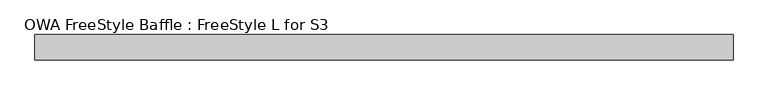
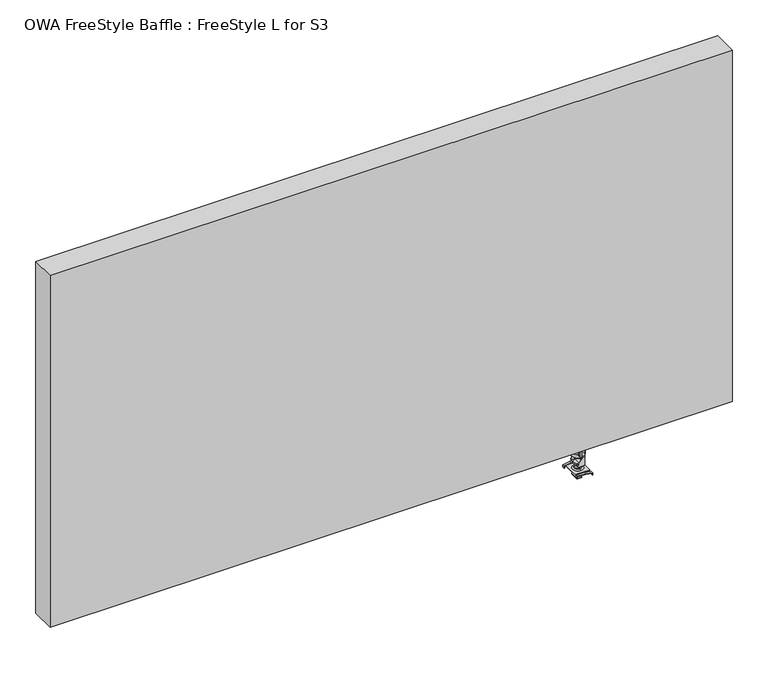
"""IFC4 building model written with IfcOpenShell, lengths in millimetres: proxy geometry, OWA FreeStyle Baffle : FreeStyle L for S3."""

from ifc_helpers import new_model, si_unit, point, frame, frame_2d, origin, place, context, project, spatial, polyline, circle_curve, trimmed, segment, composite_curve, outline, extrude, source, transform, mapped, element, save
from ifc_brep_helpers import plane_surface, cylinder_surface, revolved_surface, advanced_brep


def owa_freestyle_baffle_freestyle_l_for_s3_53db9574(model_context):
    return source(origin(), model_context, "Body", "SolidModel", [
        advanced_brep(
        [(-121.0, 8.4415003, 1.5898642), (-121.0, -8.4415003, 1.5898642), (-121.0, 0.0, 1.5898642), (-121.0, 6.3209107, 2.7955065), (-121.0, -6.3209107, 2.7955065), (-121.0, 4.2468376, 2.7955065), (-121.0, -4.2468376, 2.7955065), (-121.0, 4.2468376, 7.2398642), (-121.0, -4.2468376, 7.2398642), (-121.0, 5.0073658, 8.5775481), (-121.0, -5.0073658, 8.5775481), (-121.0, 5.0073658, 9.7898642), (-121.0, -5.0073658, 9.7898642), (-121.0, 6.1718376, 12.0898642), (-121.0, -6.1718376, 12.0898642), (-121.0, -6.1718376, 10.5898642), (-116.231961, -3.9188497, 10.5898642), (-116.231961, -3.9188497, 9.7898642), (-116.231961, 3.9188497, 9.7898642), (-116.231961, 3.9188497, 10.5898642), (-121.0, 6.1718376, 10.5898642), (-125.9436106, 3.6949009, 10.5898642), (-125.9436106, 3.6949009, 9.7898642), (-125.9436106, -3.6949009, 9.7898642), (-125.9436106, -3.6949009, 10.5898642), (-121.0, 0.0, 12.0898642), (-115.5, -10.0577889, 28.4358156), (-118.4062575, -10.0577889, 33.2858156), (-123.5, -10.0577889, 33.2858156), (-123.5, -10.0577889, 27.4015303), (-123.5, -10.0577889, 31.007432), (-118.5, -10.0577889, 31.007432), (-118.5, -10.0577889, 23.6176887), (-119.22243, -10.0577889, 21.8597795), (-123.4531897, -10.0577889, 17.5817021), (-126.4322178, -10.0577889, 13.1149322), (-125.9436106, -10.0577889, 10.5898642), (-125.9436106, -10.0577889, 9.7898642), (-116.231961, -10.0577889, 9.7898642), (-116.231961, -10.0577889, 10.5898642), (-115.5, -10.0577889, 13.1149322), (-115.5, -9.2577889, 28.4358156), (-115.5, -9.2577889, 13.1149322), (-116.231961, -9.2577889, 10.5898642), (-125.9436106, -9.2577889, 10.5898642), (-126.4322178, -9.2577889, 13.1149322), (-123.4531897, -9.2577889, 17.5817021), (-119.22243, -9.2577889, 21.8597795), (-118.5, -9.2577889, 23.6176887), (-118.5, -9.2577889, 31.007432), (-123.5, -9.2577889, 31.007432), (-123.5, -9.2577889, 27.4015303), (-123.5, -9.2577889, 33.2858156), (-118.4062575, -9.2577889, 33.2858156), (-116.231961, 9.2577889, 10.5898642), (-125.9436106, 9.2577889, 10.5898642), (-125.9436106, 10.0577889, 9.7898642), (-116.231961, 10.0577889, 9.7898642), (-125.9436106, 10.0577889, 10.5898642), (-126.4322178, 10.0577889, 13.1149322), (-123.4531897, 10.0577889, 17.5817021), (-119.22243, 10.0577889, 21.8597795), (-118.5, 10.0577889, 23.6176887), (-118.5, 10.0577889, 31.007432), (-123.5, 10.0577889, 31.007432), (-123.5, 10.0577889, 27.4015303), (-123.5, 10.0577889, 33.2858156), (-118.4062575, 10.0577889, 33.2858156), (-115.5, 10.0577889, 28.4358156), (-115.5, 10.0577889, 13.1149322), (-116.231961, 10.0577889, 10.5898642), (-115.5, 9.2577889, 28.4358156), (-118.4062575, 9.2577889, 33.2858156), (-123.5, 9.2577889, 33.2858156), (-123.5, 9.2577889, 27.4015303), (-123.5, 9.2577889, 31.007432), (-118.5, 9.2577889, 31.007432), (-118.5, 9.2577889, 23.6176887), (-119.22243, 9.2577889, 21.8597795), (-123.4531897, 9.2577889, 17.5817021), (-126.4322178, 9.2577889, 13.1149322), (-115.5, 9.2577889, 13.1149322)],
        [
            (0, 1, circle_curve(frame((-121.0, 0.0, 1.5898642), z_axis=(0.0, 0.0, -1.0), x_axis=(0.0, -1.0, 0.0)), 8.4415003)),
            (1, 2),
            (2, 0),
            (1, 0, circle_curve(frame((-121.0, 0.0, 1.5898642), z_axis=(0.0, 0.0, -1.0), x_axis=(0.0, -1.0, 0.0)), 8.4415003)),
            (0, 3),
            (3, 4, circle_curve(frame((-121.0, 0.0, 2.7955065), z_axis=(0.0, 0.0, -1.0), x_axis=(0.0, -1.0, 0.0)), 6.3209107)),
            (4, 1),
            (4, 3, circle_curve(frame((-121.0, 0.0, 2.7955065), z_axis=(0.0, 0.0, -1.0), x_axis=(0.0, -1.0, 0.0)), 6.3209107)),
            (3, 5),
            (5, 6, circle_curve(frame((-121.0, 0.0, 2.7955065), z_axis=(0.0, 0.0, -1.0), x_axis=(0.0, -1.0, 0.0)), 4.2468376)),
            (6, 4),
            (6, 5, circle_curve(frame((-121.0, 0.0, 2.7955065), z_axis=(0.0, 0.0, -1.0), x_axis=(0.0, -1.0, 0.0)), 4.2468376)),
            (5, 7),
            (7, 8, circle_curve(frame((-121.0, 0.0, 7.2398642), z_axis=(0.0, 0.0, -1.0), x_axis=(0.0, -1.0, 0.0)), 4.2468376)),
            (8, 6),
            (8, 7, circle_curve(frame((-121.0, 0.0, 7.2398642), z_axis=(0.0, 0.0, -1.0), x_axis=(0.0, -1.0, 0.0)), 4.2468376)),
            (7, 9),
            (9, 10, circle_curve(frame((-121.0, 0.0, 8.5775481), z_axis=(0.0, 0.0, -1.0), x_axis=(0.0, -1.0, 0.0)), 5.0073658)),
            (10, 8),
            (10, 9, circle_curve(frame((-121.0, 0.0, 8.5775481), z_axis=(0.0, 0.0, -1.0), x_axis=(0.0, -1.0, 0.0)), 5.0073658)),
            (9, 11),
            (11, 12, circle_curve(frame((-121.0, 0.0, 9.7898642), z_axis=(0.0, 0.0, -1.0), x_axis=(0.0, -1.0, 0.0)), 5.0073658)),
            (12, 10),
            (12, 11, circle_curve(frame((-121.0, 0.0, 9.7898642), z_axis=(0.0, 0.0, -1.0), x_axis=(0.0, -1.0, 0.0)), 5.0073658)),
            (13, 14, circle_curve(frame((-121.0, 0.0, 12.0898642), z_axis=(0.0, 0.0, -1.0), x_axis=(0.0, -1.0, 0.0)), 6.1718376)),
            (14, 15),
            (15, 16, circle_curve(frame((-121.0, 0.0, 10.5898642), z_axis=(0.0, 0.0, 1.0), x_axis=(0.0, -1.0, 0.0)), 6.1718376)),
            (16, 17),
            (17, 18, circle_curve(frame((-121.0, 0.0, 9.7898642), z_axis=(0.0, 0.0, 1.0), x_axis=(0.0, -1.0, 0.0)), 6.1718376)),
            (18, 19),
            (19, 20, circle_curve(frame((-121.0, 0.0, 10.5898642), z_axis=(0.0, 0.0, 1.0), x_axis=(0.0, -1.0, 0.0)), 6.1718376)),
            (20, 13),
            (14, 13, circle_curve(frame((-121.0, 0.0, 12.0898642), z_axis=(0.0, 0.0, -1.0), x_axis=(0.0, -1.0, 0.0)), 6.1718376)),
            (20, 21, circle_curve(frame((-121.0, 0.0, 10.5898642), z_axis=(0.0, 0.0, 1.0), x_axis=(0.0, -1.0, 0.0)), 6.1718376)),
            (21, 22),
            (22, 23, circle_curve(frame((-121.0, 0.0, 9.7898642), z_axis=(0.0, 0.0, 1.0), x_axis=(0.0, -1.0, 0.0)), 6.1718376)),
            (23, 24),
            (24, 15, circle_curve(frame((-121.0, 0.0, 10.5898642), z_axis=(0.0, 0.0, 1.0), x_axis=(0.0, -1.0, 0.0)), 6.1718376)),
            (13, 25),
            (25, 14),
            (26, 27, circle_curve(frame((-121.0, -10.0577889, 28.4358156), z_axis=(0.0, -1.0, 0.0), x_axis=(0.0, 0.0, 1.0)), 5.5)),
            (27, 28),
            (28, 29, circle_curve(frame((-122.4794267, -10.0577889, 30.343673), z_axis=(0.0, -1.0, 0.0), x_axis=(0.0, 0.0, 1.0)), 3.1141248)),
            (29, 30),
            (30, 31),
            (31, 32),
            (32, 33, circle_curve(frame((-121.0, -10.0577889, 23.6176887), z_axis=(0.0, 1.0, 0.0), x_axis=(0.0, 0.0, 1.0)), 2.5)),
            (33, 34),
            (34, 35, circle_curve(frame((-113.4323663, -10.0577889, 7.6717141), z_axis=(0.0, -1.0, 0.0), x_axis=(0.0, 0.0, 1.0)), 14.0934298)),
            (35, 36, circle_curve(frame((-124.2927664, -10.0577889, 12.2191142), z_axis=(0.0, -1.0, 0.0), x_axis=(0.0, 0.0, 1.0)), 2.3194271)),
            (36, 37),
            (37, 38),
            (38, 39),
            (39, 40, circle_curve(frame((-120.221382, -10.0577889, 13.1149322), z_axis=(0.0, -1.0, 0.0), x_axis=(0.0, 0.0, 1.0)), 4.721382)),
            (40, 26),
            (41, 42),
            (42, 43, circle_curve(frame((-120.221382, -9.2577889, 13.1149322), z_axis=(0.0, 1.0, 0.0), x_axis=(0.0, 0.0, 1.0)), 4.721382)),
            (43, 44),
            (44, 45, circle_curve(frame((-124.2927664, -9.2577889, 12.2191142), z_axis=(0.0, 1.0, 0.0), x_axis=(0.0, 0.0, 1.0)), 2.3194271)),
            (45, 46, circle_curve(frame((-113.4323663, -9.2577889, 7.6717141), z_axis=(0.0, 1.0, 0.0), x_axis=(0.0, 0.0, 1.0)), 14.0934298)),
            (46, 47),
            (47, 48, circle_curve(frame((-121.0, -9.2577889, 23.6176887), z_axis=(0.0, -1.0, 0.0), x_axis=(0.0, 0.0, 1.0)), 2.5)),
            (48, 49),
            (49, 50),
            (50, 51),
            (51, 52, circle_curve(frame((-122.4794267, -9.2577889, 30.343673), z_axis=(0.0, 1.0, 0.0), x_axis=(0.0, 0.0, 1.0)), 3.1141248)),
            (52, 53),
            (53, 41, circle_curve(frame((-121.0, -9.2577889, 28.4358156), z_axis=(0.0, 1.0, 0.0), x_axis=(0.0, 0.0, 1.0)), 5.5)),
            (26, 41),
            (53, 27),
            (52, 28),
            (51, 29),
            (50, 30),
            (49, 31),
            (33, 47),
            (46, 34),
            (45, 35),
            (44, 36),
            (39, 43),
            (42, 40),
            (32, 48),
            (43, 16),
            (24, 44),
            (54, 55),
            (55, 21),
            (19, 54),
            (56, 57),
            (57, 18),
            (17, 38),
            (37, 23),
            (22, 56),
            (58, 56),
            (55, 58),
            (58, 59, circle_curve(frame((-124.2927664, 10.0577889, 12.2191142), z_axis=(0.0, 1.0, 0.0), x_axis=(0.0, 0.0, 1.0)), 2.3194271)),
            (59, 60, circle_curve(frame((-113.4323663, 10.0577889, 7.6717141), z_axis=(0.0, 1.0, 0.0), x_axis=(0.0, 0.0, 1.0)), 14.0934298)),
            (60, 61),
            (61, 62, circle_curve(frame((-121.0, 10.0577889, 23.6176887), z_axis=(0.0, -1.0, 0.0), x_axis=(0.0, 0.0, 1.0)), 2.5)),
            (62, 63),
            (63, 64),
            (64, 65),
            (65, 66, circle_curve(frame((-122.4794267, 10.0577889, 30.343673), z_axis=(0.0, 1.0, 0.0), x_axis=(0.0, 0.0, 1.0)), 3.1141248)),
            (66, 67),
            (67, 68, circle_curve(frame((-121.0, 10.0577889, 28.4358156), z_axis=(0.0, 1.0, 0.0), x_axis=(0.0, 0.0, 1.0)), 5.5)),
            (68, 69),
            (69, 70, circle_curve(frame((-120.221382, 10.0577889, 13.1149322), z_axis=(0.0, 1.0, 0.0), x_axis=(0.0, 0.0, 1.0)), 4.721382)),
            (70, 57),
            (70, 54),
            (71, 72, circle_curve(frame((-121.0, 9.2577889, 28.4358156), z_axis=(0.0, -1.0, 0.0), x_axis=(0.0, 0.0, 1.0)), 5.5)),
            (72, 73),
            (73, 74, circle_curve(frame((-122.4794267, 9.2577889, 30.343673), z_axis=(0.0, -1.0, 0.0), x_axis=(0.0, 0.0, 1.0)), 3.1141248)),
            (74, 75),
            (75, 76),
            (76, 77),
            (77, 78, circle_curve(frame((-121.0, 9.2577889, 23.6176887), z_axis=(0.0, 1.0, 0.0), x_axis=(0.0, 0.0, 1.0)), 2.5)),
            (78, 79),
            (79, 80, circle_curve(frame((-113.4323663, 9.2577889, 7.6717141), z_axis=(0.0, -1.0, 0.0), x_axis=(0.0, 0.0, 1.0)), 14.0934298)),
            (80, 55, circle_curve(frame((-124.2927664, 9.2577889, 12.2191142), z_axis=(0.0, -1.0, 0.0), x_axis=(0.0, 0.0, 1.0)), 2.3194271)),
            (54, 81, circle_curve(frame((-120.221382, 9.2577889, 13.1149322), z_axis=(0.0, -1.0, 0.0), x_axis=(0.0, 0.0, 1.0)), 4.721382)),
            (81, 71),
            (67, 72),
            (71, 68),
            (66, 73),
            (65, 74),
            (64, 75),
            (63, 76),
            (60, 79),
            (78, 61),
            (59, 80),
            (69, 81),
            (77, 62),
        ],
        [
            plane_surface(frame((-121.0, 0.0, 1.5898642), z_axis=(0.0, 0.0, -1.0), x_axis=(0.0, -1.0, 0.0))),
            revolved_surface(polyline([(-121.0, -8.4415003, 1.5898642), (-121.0, -6.3209107, 2.7955065)]), (-121.0, 0.0, -2.0962775), (0.0, 0.0, 1.0)),
            plane_surface(frame((-121.0, 0.0, 2.7955065), z_axis=(0.0, 0.0, 1.0), x_axis=(0.0, -1.0, 0.0))),
            cylinder_surface(frame((-121.0, 0.0, -2.0962775), z_axis=(0.0, 0.0, 1.0), x_axis=(0.0, -1.0, 0.0)), 4.2468376),
            revolved_surface(polyline([(-121.0, -4.2468376, 7.2398642), (-121.0, -5.0073658, 8.5775481)]), (-121.0, 0.0, -2.0962775), (0.0, 0.0, 1.0)),
            cylinder_surface(frame((-121.0, 0.0, -2.0962775), z_axis=(0.0, 0.0, 1.0), x_axis=(0.0, -1.0, 0.0)), 5.0073658),
            cylinder_surface(frame((-121.0, 0.0, -2.0962775), z_axis=(0.0, 0.0, 1.0), x_axis=(0.0, -1.0, 0.0)), 6.1718376),
            plane_surface(frame((-121.0, 0.0, 12.0898642), z_axis=(0.0, 0.0, 1.0), x_axis=(0.0, -1.0, 0.0))),
            plane_surface(frame((-115.5, -10.0577889, 13.1149322), z_axis=(0.0, -1.0, 0.0), x_axis=(0.0, 0.0, 1.0))),
            plane_surface(frame((-115.5, -9.2577889, 13.1149322), z_axis=(0.0, 1.0, 0.0), x_axis=(0.0, 0.0, -1.0))),
            cylinder_surface(frame((-121.0, -10.0577889, 28.4358156), z_axis=(0.0, 1.0, 0.0), x_axis=(0.0, 0.0, 1.0)), 5.5),
            plane_surface(frame((-123.5, -9.2577889, 33.2858156), z_axis=(0.0, 0.0, 1.0), x_axis=(0.0, -1.0, 0.0))),
            cylinder_surface(frame((-122.4794267, -10.0577889, 30.343673), z_axis=(0.0, 1.0, 0.0), x_axis=(0.0, 0.0, 1.0)), 3.1141248),
            plane_surface(frame((-123.5, -9.2577889, 31.007432), z_axis=(1.0, 0.0, 0.0), x_axis=(0.0, -1.0, 0.0))),
            plane_surface(frame((-118.5, -9.2577889, 31.007432), z_axis=(0.0, 0.0, -1.0), x_axis=(0.0, -1.0, 0.0))),
            plane_surface(frame((-123.4531897, -9.2577889, 17.5817021), z_axis=(-0.7110280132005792, 0.0, 0.7031636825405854), x_axis=(0.0, -1.0, 0.0))),
            cylinder_surface(frame((-113.4323663, -10.0577889, 7.6717141), z_axis=(0.0, 1.0, 0.0), x_axis=(0.0, 0.0, 1.0)), 14.0934298),
            cylinder_surface(frame((-124.2927664, -10.0577889, 12.2191142), z_axis=(0.0, 1.0, 0.0), x_axis=(0.0, 0.0, 1.0)), 2.3194271),
            cylinder_surface(frame((-120.221382, -10.0577889, 13.1149322), z_axis=(0.0, 1.0, 0.0), x_axis=(0.0, 0.0, 1.0)), 4.721382),
            plane_surface(frame((-115.5, -9.2577889, 28.4358156), z_axis=(1.0, 0.0, 0.0), x_axis=(0.0, -1.0, 0.0))),
            revolved_surface(polyline([(-121.0, -10.0577889, 26.1176887), (-121.0, -9.2577889, 26.1176887)]), (-121.0, -10.0577889, 23.6176887), (0.0, -1.0, 0.0)),
            plane_surface(frame((-118.5, -9.2577889, 23.6176887), z_axis=(-1.0, 0.0, 0.0), x_axis=(0.0, -1.0, 0.0))),
            plane_surface(frame((-125.9436106, -9.2577889, 10.5898642), z_axis=(0.0, 0.0, 1.0), x_axis=(0.0, -1.0, 0.0))),
            plane_surface(frame((-125.9436106, -9.2577889, 9.7898642), z_axis=(0.0, 0.0, -1.0), x_axis=(0.0, 1.0, 0.0))),
            plane_surface(frame((-125.9436106, -10.0577889, 9.7898642), z_axis=(-1.0, 0.0, 0.0), x_axis=(0.0, 0.0, 1.0))),
            plane_surface(frame((-125.9436106, 10.0577889, 9.7898642), z_axis=(0.0, 1.0, 0.0), x_axis=(0.0, 0.0, 1.0))),
            plane_surface(frame((-116.231961, 10.0577889, 9.7898642), z_axis=(1.0, 0.0, 0.0), x_axis=(0.0, 0.0, 1.0))),
            plane_surface(frame((-121.0, 9.2577889, 33.9358156), z_axis=(0.0, -1.0, 0.0), x_axis=(-1.0, 0.0, 0.0))),
            cylinder_surface(frame((-121.0, 10.0577889, 28.4358156), z_axis=(0.0, -1.0, 0.0), x_axis=(0.0, 0.0, 1.0)), 5.5),
            plane_surface(frame((-118.4062575, 9.2577889, 33.2858156), z_axis=(0.0, 0.0, 1.0), x_axis=(0.0, 1.0, 0.0))),
            cylinder_surface(frame((-122.4794267, 10.0577889, 30.343673), z_axis=(0.0, -1.0, 0.0), x_axis=(0.0, 0.0, 1.0)), 3.1141248),
            plane_surface(frame((-123.5, 9.2577889, 27.4015303), z_axis=(1.0, 0.0, 0.0), x_axis=(0.0, 1.0, 0.0))),
            plane_surface(frame((-123.5, 9.2577889, 31.007432), z_axis=(0.0, 0.0, -1.0), x_axis=(0.0, 1.0, 0.0))),
            plane_surface(frame((-119.22243, 9.2577889, 21.8597795), z_axis=(-0.7110280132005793, 0.0, 0.7031636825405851), x_axis=(0.0, 1.0, 0.0))),
            cylinder_surface(frame((-113.4323663, 10.0577889, 7.6717141), z_axis=(0.0, -1.0, 0.0), x_axis=(0.0, 0.0, 1.0)), 14.0934298),
            cylinder_surface(frame((-124.2927664, 10.0577889, 12.2191142), z_axis=(0.0, -1.0, 0.0), x_axis=(0.0, 0.0, 1.0)), 2.3194271),
            cylinder_surface(frame((-120.221382, 10.0577889, 13.1149322), z_axis=(0.0, -1.0, 0.0), x_axis=(0.0, 0.0, 1.0)), 4.721382),
            plane_surface(frame((-115.5, 9.2577889, 13.1149322), z_axis=(1.0, 0.0, 0.0), x_axis=(0.0, 1.0, 0.0))),
            revolved_surface(polyline([(-121.0, 10.0577889, 26.1176887), (-121.0, 9.2577889, 26.1176887)]), (-121.0, 10.0577889, 23.6176887), (0.0, 1.0, 0.0)),
            plane_surface(frame((-118.5, 9.2577889, 31.007432), z_axis=(-1.0, 0.0, 0.0), x_axis=(0.0, 1.0, 0.0))),
        ],
        [
            (0, [[1, 2, 3]]),
            (0, [[-2, 4, -3]]),
            (1, [[-1, 5, 6, 7]]),
            (1, [[-4, -7, 8, -5]]),
            (2, [[-6, 9, 10, 11]]),
            (2, [[-8, -11, 12, -9]]),
            (3, [[-10, 13, 14, 15]]),
            (3, [[-12, -15, 16, -13]]),
            (4, [[-14, 17, 18, 19]]),
            (4, [[-16, -19, 20, -17]]),
            (5, [[-18, 21, 22, 23]]),
            (5, [[-20, -23, 24, -21]]),
            (6, [[25, 26, 27, 28, 29, 30, 31, 32]]),
            (6, [[33, -32, 34, 35, 36, 37, 38, -26]]),
            (7, [[-25, 39, 40]]),
            (7, [[-33, -40, -39]]),
            (8, [[41, 42, 43, 44, 45, 46, 47, 48, 49, 50, 51, 52, 53, 54, 55]]),
            (9, [[56, 57, 58, 59, 60, 61, 62, 63, 64, 65, 66, 67, 68]]),
            (10, [[-41, 69, -68, 70]]),
            (11, [[-42, -70, -67, 71]]),
            (12, [[-43, -71, -66, 72]]),
            (13, [[-44, -72, -65, 73]]),
            (14, [[-45, -73, -64, 74]]),
            (15, [[-48, 75, -61, 76]]),
            (16, [[-49, -76, -60, 77]]),
            (17, [[-50, -77, -59, 78]]),
            (18, [[-54, 79, -57, 80]]),
            (19, [[-55, -80, -56, -69]]),
            (20, [[-47, 81, -62, -75]]),
            (21, [[-46, -74, -63, -81]]),
            (22, [[-58, 82, -27, -38, 83]]),
            (22, [[84, 85, -34, -31, 86]]),
            (23, [[87, 88, -29, 89, -52, 90, -36, 91], [-24, -22]]),
            (24, [[-51, -78, -83, -37, -90]]),
            (24, [[92, -91, -35, -85, 93]]),
            (25, [[-87, -92, 94, 95, 96, 97, 98, 99, 100, 101, 102, 103, 104, 105, 106]]),
            (26, [[-53, -89, -28, -82, -79]]),
            (26, [[-106, 107, -86, -30, -88]]),
            (27, [[108, 109, 110, 111, 112, 113, 114, 115, 116, 117, -84, 118, 119]]),
            (28, [[-103, 120, -108, 121]]),
            (29, [[-102, 122, -109, -120]]),
            (30, [[-101, 123, -110, -122]]),
            (31, [[-100, 124, -111, -123]]),
            (32, [[-99, 125, -112, -124]]),
            (33, [[-96, 126, -115, 127]]),
            (34, [[-95, 128, -116, -126]]),
            (35, [[-94, -93, -117, -128]]),
            (36, [[-105, 129, -118, -107]]),
            (37, [[-104, -121, -119, -129]]),
            (38, [[-97, -127, -114, 130]]),
            (39, [[-98, -130, -113, -125]]),
        ],
    ),
        advanced_brep(
        [(-125.5504372, -6.4495628, -1.2101358), (-125.5504372, -6.4495628, -2.0101358), (-132.5504372, -6.4495628, -2.0101358), (-132.5504372, -6.4495628, 1.5898642), (-132.5504372, -6.4495628, 0.7898642), (-132.5504372, -6.4495628, -1.2101358), (-132.5504372, -14.9495628, -1.2101358), (-132.5504372, -18.9495628, -1.2101358), (-125.5504372, -18.9495628, -1.2101358), (-132.5504372, -12.9495628, 0.7898642), (-132.5504372, -14.9495628, 0.7898642), (-132.5504372, -14.9495628, -2.0101358), (-132.5504372, -14.9495628, 1.5898642), (-132.5504372, -12.9495628, 1.5898642), (-125.5504372, -18.9495628, -2.0101358), (-132.5504372, -18.9495628, -2.0101358), (-109.5504372, -12.9495628, 1.5898642), (-109.5504372, 6.4495628, 1.5898642), (-109.5504372, 13.0504372, 1.5898642), (-132.5504372, 13.0504372, 1.5898642), (-132.5504372, 13.0504372, 0.7898642), (-109.5504372, 13.0504372, 0.7898642), (-109.5504372, 6.4495628, 0.7898642), (-109.5504372, -12.9495628, 0.7898642), (-132.5504372, -18.9495628, 0.7898642), (-118.9412497, -18.9495628, 0.7898642), (-108.5499325, -18.9495628, -1.0424054), (-108.5499325, -18.9495628, -4.0091992), (-107.7499325, -18.9495628, -4.0091992), (-107.7499325, -18.9495628, -0.3711257), (-118.8712588, -18.9495628, 1.5898642), (-132.5504372, -18.9495628, 1.5898642), (-118.8712588, -14.9495628, 1.5898642), (-107.7499325, -14.9495628, -0.3711257), (-107.7499325, -14.9495628, -4.0091992), (-108.5499325, -14.9495628, -4.0091992), (-108.5499325, -14.9495628, -1.0424054), (-118.9412497, -14.9495628, 0.7898642), (-116.5504372, 6.4495628, -1.2101358), (-116.5504372, 6.4495628, -2.0101358), (-109.5504372, 6.4495628, -2.0101358), (-109.5504372, 6.4495628, -1.2101358), (-109.5504372, 14.9495628, -1.2101358), (-109.5504372, 18.9495628, -1.2101358), (-116.5504372, 18.9495628, -1.2101358), (-109.5504372, 14.9495628, 0.7898642), (-109.5504372, 14.9495628, -2.0101358), (-109.5504372, 14.9495628, 1.5898642), (-116.5504372, 18.9495628, -2.0101358), (-109.5504372, 18.9495628, -2.0101358), (-109.5504372, 18.9495628, 0.7898642), (-123.1596246, 18.9495628, 0.7898642), (-133.5509418, 18.9495628, -1.0424054), (-133.5509418, 18.9495628, -4.0091992), (-134.3509418, 18.9495628, -4.0091992), (-134.3509418, 18.9495628, -0.3711257), (-123.2296155, 18.9495628, 1.5898642), (-109.5504372, 18.9495628, 1.5898642), (-123.2296155, 14.9495628, 1.5898642), (-134.3509418, 14.9495628, -0.3711257), (-134.3509418, 14.9495628, -4.0091992), (-133.5509418, 14.9495628, -4.0091992), (-133.5509418, 14.9495628, -1.0424054), (-123.1596246, 14.9495628, 0.7898642)],
        [
            (0, 1),
            (1, 2),
            (2, 3, circle_curve(frame((-132.5504372, -6.4495628, -0.2101358), z_axis=(0.0, 1.0, 0.0), x_axis=(1.0, 0.0, 0.0)), 1.8)),
            (3, 4),
            (4, 5, circle_curve(frame((-132.5504372, -6.4495628, -0.2101358), z_axis=(0.0, -1.0, 0.0), x_axis=(1.0, 0.0, 0.0)), 1.0)),
            (5, 0),
            (5, 6),
            (6, 7),
            (7, 8),
            (8, 0),
            (4, 9),
            (9, 10),
            (10, 6, circle_curve(frame((-132.5504372, -14.9495628, -0.2101358), z_axis=(0.0, -1.0, 0.0), x_axis=(1.0, 0.0, 0.0)), 1.0)),
            (2, 11),
            (11, 12, circle_curve(frame((-132.5504372, -14.9495628, -0.2101358), z_axis=(0.0, 1.0, 0.0), x_axis=(1.0, 0.0, 0.0)), 1.8)),
            (12, 13),
            (13, 3),
            (1, 14),
            (14, 15),
            (15, 11),
            (8, 14),
            (12, 10),
            (9, 13),
            (13, 16),
            (16, 17),
            (17, 18),
            (18, 19),
            (19, 3),
            (20, 21),
            (21, 22),
            (22, 23),
            (23, 9),
            (4, 20),
            (18, 21),
            (20, 19),
            (16, 23),
            (22, 17),
            (7, 24, circle_curve(frame((-132.5504372, -18.9495628, -0.2101358), z_axis=(0.0, 1.0, 0.0), x_axis=(1.0, 0.0, 0.0)), 1.0)),
            (24, 25),
            (25, 26),
            (26, 27),
            (27, 28),
            (28, 29),
            (29, 30),
            (30, 31),
            (31, 15, circle_curve(frame((-132.5504372, -18.9495628, -0.2101358), z_axis=(0.0, -1.0, 0.0), x_axis=(1.0, 0.0, 0.0)), 1.8)),
            (12, 32),
            (32, 33),
            (33, 34),
            (34, 35),
            (35, 36),
            (36, 37),
            (37, 10),
            (10, 24),
            (37, 25),
            (30, 32),
            (12, 31),
            (36, 26),
            (35, 27),
            (34, 28),
            (33, 29),
            (38, 39),
            (39, 40),
            (40, 17, circle_curve(frame((-109.5504372, 6.4495628, -0.2101358), z_axis=(0.0, -1.0, 0.0), x_axis=(-1.0, 0.0, 0.0)), 1.8)),
            (22, 41, circle_curve(frame((-109.5504372, 6.4495628, -0.2101358), z_axis=(0.0, 1.0, 0.0), x_axis=(-1.0, 0.0, 0.0)), 1.0)),
            (41, 38),
            (41, 42),
            (42, 43),
            (43, 44),
            (44, 38),
            (21, 45),
            (45, 42, circle_curve(frame((-109.5504372, 14.9495628, -0.2101358), z_axis=(0.0, 1.0, 0.0), x_axis=(-1.0, 0.0, 0.0)), 1.0)),
            (40, 46),
            (46, 47, circle_curve(frame((-109.5504372, 14.9495628, -0.2101358), z_axis=(0.0, -1.0, 0.0), x_axis=(-1.0, 0.0, 0.0)), 1.8)),
            (47, 18),
            (39, 48),
            (48, 49),
            (49, 46),
            (44, 48),
            (47, 45),
            (43, 50, circle_curve(frame((-109.5504372, 18.9495628, -0.2101358), z_axis=(0.0, -1.0, 0.0), x_axis=(-1.0, 0.0, 0.0)), 1.0)),
            (50, 51),
            (51, 52),
            (52, 53),
            (53, 54),
            (54, 55),
            (55, 56),
            (56, 57),
            (57, 49, circle_curve(frame((-109.5504372, 18.9495628, -0.2101358), z_axis=(0.0, 1.0, 0.0), x_axis=(-1.0, 0.0, 0.0)), 1.8)),
            (47, 58),
            (58, 59),
            (59, 60),
            (60, 61),
            (61, 62),
            (62, 63),
            (63, 45),
            (45, 50),
            (63, 51),
            (56, 58),
            (47, 57),
            (62, 52),
            (61, 53),
            (60, 54),
            (59, 55),
        ],
        [
            plane_surface(frame((-132.5504372, -6.4495628, -1.2101358), z_axis=(0.0, 1.0, 0.0), x_axis=(1.0, 0.0, 0.0))),
            plane_surface(frame((-125.5504372, -14.9495628, -1.2101358), z_axis=(0.0, 0.0, 1.0), x_axis=(0.0, 1.0, 0.0))),
            revolved_surface(polyline([(-131.5504372, -6.4495628, -0.2101358), (-131.5504372, -14.949562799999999, -0.2101358)]), (-132.5504372, -6.4495628, -0.2101358), (0.0, 1.0, 0.0)),
            cylinder_surface(frame((-132.5504372, -6.4495628, -0.2101358), z_axis=(0.0, -1.0, 0.0), x_axis=(1.0, 0.0, 0.0)), 1.8),
            plane_surface(frame((-132.5504372, -14.9495628, -2.0101358), z_axis=(0.0, 0.0, -1.0), x_axis=(0.0, 1.0, 0.0))),
            plane_surface(frame((-125.5504372, -14.9495628, -2.0101358), z_axis=(1.0, 0.0, 0.0), x_axis=(0.0, 1.0, 0.0))),
            plane_surface(frame((-132.5504372, -14.9495628, 0.7898642), z_axis=(1.0, 0.0, 0.0), x_axis=(0.0, 1.0, 0.0))),
            plane_surface(frame((-112.0504372, 13.0504372, 1.5898642), z_axis=(0.0, 0.0, 1.0), x_axis=(-1.0, 0.0, 0.0))),
            plane_surface(frame((-112.0504372, 13.0504372, 0.7898642), z_axis=(0.0, 0.0, -1.0), x_axis=(1.0, 0.0, 0.0))),
            plane_surface(frame((-132.5504372, 13.0504372, 0.7898642), z_axis=(0.0, 1.0, 0.0), x_axis=(0.0, 0.0, 1.0))),
            plane_surface(frame((-109.5504372, 13.0504372, 0.7898642), z_axis=(1.0, 0.0, 0.0), x_axis=(0.0, 0.0, 1.0))),
            plane_surface(frame((-109.5504372, -12.9495628, 0.7898642), z_axis=(0.0, -1.0, 0.0), x_axis=(0.0, 0.0, 1.0))),
            plane_surface(frame((-132.5504372, -12.9495628, 0.7898642), z_axis=(-1.0, 0.0, 0.0), x_axis=(0.0, 0.0, 1.0))),
            plane_surface(frame((-132.5504372, -18.9495628, -1.2101358), z_axis=(0.0, -1.0, 0.0), x_axis=(-1.0, 0.0, 0.0))),
            plane_surface(frame((-132.5504372, -14.9495628, -1.2101358), z_axis=(0.0, 1.0, 0.0), x_axis=(1.0, 0.0, 0.0))),
            revolved_surface(polyline([(-131.5504372, -14.9495628, -0.2101358), (-131.5504372, -18.9495628, -0.2101358)]), (-132.5504372, -14.9495628, -0.2101358), (0.0, 1.0, 0.0)),
            plane_surface(frame((-132.5504372, -18.9495628, 0.7898642), z_axis=(0.0, 0.0, -1.0), x_axis=(0.0, 1.0, 0.0))),
            plane_surface(frame((-118.8712588, -18.9495628, 1.5898642), z_axis=(0.0, 0.0, 1.0), x_axis=(0.0, 1.0, 0.0))),
            cylinder_surface(frame((-132.5504372, -14.9495628, -0.2101358), z_axis=(0.0, -1.0, 0.0), x_axis=(1.0, 0.0, 0.0)), 1.8),
            plane_surface(frame((-118.9412497, -18.9495628, 0.7898642), z_axis=(-0.17364817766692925, 0.0, -0.9848077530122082), x_axis=(0.0, 1.0, 0.0))),
            plane_surface(frame((-108.5499325, -18.9495628, -1.0424054), z_axis=(-1.0, 0.0, 0.0), x_axis=(0.0, 1.0, 0.0))),
            plane_surface(frame((-108.5499325, -18.9495628, -4.0091992), z_axis=(0.0, 0.0, -1.0), x_axis=(0.0, 1.0, 0.0))),
            plane_surface(frame((-107.7499325, -18.9495628, -4.0091992), z_axis=(1.0, 0.0, 0.0), x_axis=(0.0, 1.0, 0.0))),
            plane_surface(frame((-107.7499325, -18.9495628, -0.3711257), z_axis=(0.17364817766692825, 0.0, 0.9848077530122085), x_axis=(0.0, 1.0, 0.0))),
            plane_surface(frame((-109.5504372, 6.4495628, -1.2101358), z_axis=(0.0, -1.0, 0.0), x_axis=(-1.0, 0.0, 0.0))),
            plane_surface(frame((-116.5504372, 14.9495628, -1.2101358), z_axis=(0.0, 0.0, 1.0), x_axis=(0.0, -1.0, 0.0))),
            revolved_surface(polyline([(-110.5504372, 6.4495628, -0.2101358), (-110.5504372, 14.949562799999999, -0.2101358)]), (-109.5504372, 6.4495628, -0.2101358), (0.0, -1.0, 0.0)),
            cylinder_surface(frame((-109.5504372, 6.4495628, -0.2101358), z_axis=(0.0, 1.0, 0.0), x_axis=(-1.0, 0.0, 0.0)), 1.8),
            plane_surface(frame((-109.5504372, 14.9495628, -2.0101358), z_axis=(0.0, 0.0, -1.0), x_axis=(0.0, -1.0, 0.0))),
            plane_surface(frame((-116.5504372, 14.9495628, -2.0101358), z_axis=(-1.0, 0.0, 0.0), x_axis=(0.0, -1.0, 0.0))),
            plane_surface(frame((-109.5504372, 14.9495628, 0.7898642), z_axis=(-1.0, 0.0, 0.0), x_axis=(0.0, -1.0, 0.0))),
            plane_surface(frame((-109.5504372, 18.9495628, -1.2101358), z_axis=(0.0, 1.0, 0.0), x_axis=(1.0, 0.0, 0.0))),
            plane_surface(frame((-109.5504372, 14.9495628, -1.2101358), z_axis=(0.0, -1.0, 0.0), x_axis=(-1.0, 0.0, 0.0))),
            revolved_surface(polyline([(-110.5504372, 14.9495628, -0.2101358), (-110.5504372, 18.9495628, -0.2101358)]), (-109.5504372, 14.9495628, -0.2101358), (0.0, -1.0, 0.0)),
            plane_surface(frame((-109.5504372, 18.9495628, 0.7898642), z_axis=(0.0, 0.0, -1.0), x_axis=(0.0, -1.0, 0.0))),
            plane_surface(frame((-123.2296155, 18.9495628, 1.5898642), z_axis=(0.0, 0.0, 1.0), x_axis=(0.0, -1.0, 0.0))),
            cylinder_surface(frame((-109.5504372, 14.9495628, -0.2101358), z_axis=(0.0, 1.0, 0.0), x_axis=(-1.0, 0.0, 0.0)), 1.8),
            plane_surface(frame((-123.1596246, 18.9495628, 0.7898642), z_axis=(0.17364817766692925, 0.0, -0.9848077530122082), x_axis=(0.0, -1.0, 0.0))),
            plane_surface(frame((-133.5509418, 18.9495628, -1.0424054), z_axis=(1.0, 0.0, 0.0), x_axis=(0.0, -1.0, 0.0))),
            plane_surface(frame((-133.5509418, 18.9495628, -4.0091992), z_axis=(0.0, 0.0, -1.0), x_axis=(0.0, -1.0, 0.0))),
            plane_surface(frame((-134.3509418, 18.9495628, -4.0091992), z_axis=(-1.0, 0.0, 0.0), x_axis=(0.0, -1.0, 0.0))),
            plane_surface(frame((-134.3509418, 18.9495628, -0.3711257), z_axis=(-0.17364817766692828, 0.0, 0.9848077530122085), x_axis=(0.0, -1.0, 0.0))),
        ],
        [
            (0, [[1, 2, 3, 4, 5, 6]]),
            (1, [[-6, 7, 8, 9, 10]]),
            (2, [[-5, 11, 12, 13, -7]]),
            (3, [[-3, 14, 15, 16, 17]]),
            (4, [[-2, 18, 19, 20, -14]]),
            (5, [[-1, -10, 21, -18]]),
            (6, [[-16, 22, -12, 23]]),
            (7, [[24, 25, 26, 27, 28, -17]]),
            (8, [[29, 30, 31, 32, -11, 33]]),
            (9, [[-27, 34, -29, 35]]),
            (10, [[36, -31, 37, -25]]),
            (11, [[-24, -23, -32, -36]]),
            (12, [[-35, -33, -4, -28]]),
            (13, [[-9, 38, 39, 40, 41, 42, 43, 44, 45, 46, -19, -21]]),
            (14, [[47, 48, 49, 50, 51, 52, 53, -22]]),
            (15, [[-38, -8, -13, 54]]),
            (16, [[-39, -54, -53, 55]]),
            (17, [[-45, 56, -47, 57]]),
            (18, [[-46, -57, -15, -20]]),
            (19, [[-40, -55, -52, 58]]),
            (20, [[-41, -58, -51, 59]]),
            (21, [[-42, -59, -50, 60]]),
            (22, [[-43, -60, -49, 61]]),
            (23, [[-44, -61, -48, -56]]),
            (24, [[62, 63, 64, -37, 65, 66]]),
            (25, [[-66, 67, 68, 69, 70]]),
            (26, [[-65, -30, 71, 72, -67]]),
            (27, [[-64, 73, 74, 75, -26]]),
            (28, [[-63, 76, 77, 78, -73]]),
            (29, [[-76, -62, -70, 79]]),
            (30, [[-75, 80, -71, -34]]),
            (31, [[-69, 81, 82, 83, 84, 85, 86, 87, 88, 89, -77, -79]]),
            (32, [[90, 91, 92, 93, 94, 95, 96, -80]]),
            (33, [[-81, -68, -72, 97]]),
            (34, [[-82, -97, -96, 98]]),
            (35, [[-88, 99, -90, 100]]),
            (36, [[-89, -100, -74, -78]]),
            (37, [[-83, -98, -95, 101]]),
            (38, [[-84, -101, -94, 102]]),
            (39, [[-85, -102, -93, 103]]),
            (40, [[-86, -103, -92, 104]]),
            (41, [[-87, -104, -91, -99]]),
        ],
    ),
        extrude(outline(composite_curve([segment(trimmed(circle_curve(frame_2d((-121.0, 0.0)), 15.8660547), [point((-136.8660547, 0.0))], [point((-105.1339453, 0.0))], False, "CARTESIAN"), True, "CONTINUOUS"), segment(trimmed(circle_curve(frame_2d((-121.0, 0.0)), 15.8660547), [point((-105.1339453, 0.0))], [point((-136.8660547, 0.0))], False, "CARTESIAN"), True, "CONTINUOUS")], self_intersect=False)), frame((0.0, 0.0, 41.0), z_axis=(0.0, 0.0, 1.0), x_axis=(1.0, 0.0, 0.0)), (0.0, 0.0, 1.0), 2.0),
        advanced_brep(
        [(-131.1641138, 0.0, 31.007432), (-123.5, -9.8518633, 31.007432), (-123.5, -10.1641138, 31.007432), (-118.5, -10.1641138, 31.007432), (-118.5, -9.8518633, 31.007432), (-110.8358862, 0.0, 31.007432), (-118.5, 9.8518633, 31.007432), (-118.5, 10.1641138, 31.007432), (-123.5, 10.1641138, 31.007432), (-123.5, 9.8518633, 31.007432), (-126.2, 0.0, 31.007432), (-115.8, 0.0, 31.007432), (-131.1641138, 0.0, 25.2100562), (-123.5, 9.8518633, 25.2100562), (-123.5, 10.1641138, 25.2100562), (-118.5, 10.1641138, 25.2100562), (-118.5, 9.8518633, 25.2100562), (-110.8358862, 0.0, 25.2100562), (-118.5, -9.8518633, 25.2100562), (-118.5, -10.1641138, 25.2100562), (-123.5, -10.1641138, 25.2100562), (-123.5, -9.8518633, 25.2100562), (-126.2, 0.0, 25.2100562), (-115.8, 0.0, 25.2100562), (-123.5, -10.816302, 41.0), (-123.5, -10.816302, 32.5083498), (-123.5, -15.0031624, 30.8560732), (-123.5, -15.0031624, 41.0), (-123.5, 10.816302, 41.0), (-123.5, 15.0031624, 41.0), (-123.5, 15.0031624, 30.8560732), (-123.5, 10.816302, 32.5083498), (-118.5, -10.816302, 41.0), (-118.5, -15.0031624, 41.0), (-118.5, -15.0031624, 30.8560732), (-118.5, -10.816302, 32.5083498), (-118.5, 10.816302, 41.0), (-118.5, 10.816302, 32.5083498), (-118.5, 15.0031624, 30.8560732), (-118.5, 15.0031624, 41.0)],
        [
            (0, 1, circle_curve(frame((-121.0, 0.0, 31.007432), z_axis=(0.0, 0.0, 1.0), x_axis=(1.0, 0.0, 0.0)), 10.1641138)),
            (1, 2),
            (2, 3),
            (3, 4),
            (4, 5, circle_curve(frame((-121.0, 0.0, 31.007432), z_axis=(0.0, 0.0, 1.0), x_axis=(1.0, 0.0, 0.0)), 10.1641138)),
            (5, 6, circle_curve(frame((-121.0, 0.0, 31.007432), z_axis=(0.0, 0.0, 1.0), x_axis=(1.0, 0.0, 0.0)), 10.1641138)),
            (6, 7),
            (7, 8),
            (8, 9),
            (9, 0, circle_curve(frame((-121.0, 0.0, 31.007432), z_axis=(0.0, 0.0, 1.0), x_axis=(1.0, 0.0, 0.0)), 10.1641138)),
            (10, 11, circle_curve(frame((-121.0, 0.0, 31.007432), z_axis=(0.0, 0.0, -1.0), x_axis=(1.0, 0.0, 0.0)), 5.2)),
            (11, 10, circle_curve(frame((-121.0, 0.0, 31.007432), z_axis=(0.0, 0.0, -1.0), x_axis=(1.0, 0.0, 0.0)), 5.2)),
            (12, 13, circle_curve(frame((-121.0, 0.0, 25.2100562), z_axis=(0.0, 0.0, -1.0), x_axis=(1.0, 0.0, 0.0)), 10.1641138)),
            (13, 14),
            (14, 15),
            (15, 16),
            (16, 17, circle_curve(frame((-121.0, 0.0, 25.2100562), z_axis=(0.0, 0.0, -1.0), x_axis=(1.0, 0.0, 0.0)), 10.1641138)),
            (17, 18, circle_curve(frame((-121.0, 0.0, 25.2100562), z_axis=(0.0, 0.0, -1.0), x_axis=(1.0, 0.0, 0.0)), 10.1641138)),
            (18, 19),
            (19, 20),
            (20, 21),
            (21, 12, circle_curve(frame((-121.0, 0.0, 25.2100562), z_axis=(0.0, 0.0, -1.0), x_axis=(1.0, 0.0, 0.0)), 10.1641138)),
            (22, 23, circle_curve(frame((-121.0, 0.0, 25.2100562), z_axis=(0.0, 0.0, 1.0), x_axis=(1.0, 0.0, 0.0)), 5.2)),
            (23, 22, circle_curve(frame((-121.0, 0.0, 25.2100562), z_axis=(0.0, 0.0, 1.0), x_axis=(1.0, 0.0, 0.0)), 5.2)),
            (0, 12),
            (21, 1),
            (17, 5),
            (4, 18),
            (9, 13),
            (16, 6),
            (10, 22),
            (23, 11),
            (24, 25),
            (25, 2, circle_curve(frame((-123.5, -8.7631339, 32.5083498), z_axis=(1.0, 0.0, 0.0), x_axis=(0.0, 1.0, 0.0)), 2.0531681)),
            (20, 26, circle_curve(frame((-123.5, -9.2898597, 30.8560732), z_axis=(-1.0, 0.0, 0.0), x_axis=(0.0, 1.0, 0.0)), 5.7133028)),
            (26, 27),
            (27, 24),
            (28, 29),
            (29, 30),
            (30, 14, circle_curve(frame((-123.5, 9.2898597, 30.8560732), z_axis=(-1.0, 0.0, 0.0), x_axis=(0.0, 1.0, 0.0)), 5.7133028)),
            (8, 31, circle_curve(frame((-123.5, 8.7631339, 32.5083498), z_axis=(1.0, 0.0, 0.0), x_axis=(0.0, 1.0, 0.0)), 2.0531681)),
            (31, 28),
            (32, 33),
            (33, 34),
            (34, 19, circle_curve(frame((-118.5, -9.2898597, 30.8560732), z_axis=(1.0, 0.0, 0.0), x_axis=(0.0, 1.0, 0.0)), 5.7133028)),
            (3, 35, circle_curve(frame((-118.5, -8.7631339, 32.5083498), z_axis=(-1.0, 0.0, 0.0), x_axis=(0.0, 1.0, 0.0)), 2.0531681)),
            (35, 32),
            (36, 37),
            (37, 7, circle_curve(frame((-118.5, 8.7631339, 32.5083498), z_axis=(-1.0, 0.0, 0.0), x_axis=(0.0, 1.0, 0.0)), 2.0531681)),
            (15, 38, circle_curve(frame((-118.5, 9.2898597, 30.8560732), z_axis=(1.0, 0.0, 0.0), x_axis=(0.0, 1.0, 0.0)), 5.7133028)),
            (38, 39),
            (39, 36),
            (24, 32),
            (35, 25),
            (26, 34),
            (33, 27),
            (28, 36),
            (39, 29),
            (38, 30),
            (37, 31),
        ],
        [
            plane_surface(frame((-110.8358862, 0.0, 31.007432), z_axis=(0.0, 0.0, 1.0), x_axis=(0.0, 1.0, 0.0))),
            plane_surface(frame((-110.8358862, 0.0, 25.2100562), z_axis=(0.0, 0.0, -1.0), x_axis=(0.0, -1.0, 0.0))),
            cylinder_surface(frame((-121.0, 0.0, 25.2100562), z_axis=(0.0, 0.0, 1.0), x_axis=(1.0, 0.0, 0.0)), 10.1641138),
            revolved_surface(polyline([(-115.8, 0.0, 25.2100562), (-115.8, 0.0, 31.007432)]), (-121.0, 0.0, 0.0), (0.0, 0.0, -1.0)),
            plane_surface(frame((-123.5, -10.816302, 35.167973), z_axis=(-1.0, 0.0, 0.0), x_axis=(0.0, 0.0, -1.0))),
            plane_surface(frame((-118.5, -10.816302, 35.167973), z_axis=(1.0, 0.0, 0.0), x_axis=(0.0, 0.0, 1.0))),
            plane_surface(frame((-123.5, -10.816302, 41.0), z_axis=(0.0, 1.0, 0.0), x_axis=(1.0, 0.0, 0.0))),
            plane_surface(frame((-123.5, -15.0031624, 30.8560732), z_axis=(0.0, -1.0, 0.0), x_axis=(1.0, 0.0, 0.0))),
            plane_surface(frame((-123.5, -15.0031624, 41.0), z_axis=(0.0, 0.0, 1.0), x_axis=(1.0, 0.0, 0.0))),
            revolved_surface(polyline([(-118.5, -6.709965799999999, 32.5083498), (-123.5, -6.709965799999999, 32.5083498)]), (-118.5, -8.7631339, 32.5083498), (1.0, 0.0, 0.0)),
            cylinder_surface(frame((-118.5, -9.2898597, 30.8560732), z_axis=(-1.0, 0.0, 0.0), x_axis=(0.0, 1.0, 0.0)), 5.7133028),
            plane_surface(frame((-123.5, 10.816302, 41.0), z_axis=(0.0, 0.0, 1.0), x_axis=(1.0, 0.0, 0.0))),
            plane_surface(frame((-123.5, 15.0031624, 41.0), z_axis=(0.0, 1.0, 0.0), x_axis=(1.0, 0.0, 0.0))),
            cylinder_surface(frame((-121.0, 9.2898597, 30.8560732), z_axis=(-1.0, 0.0, 0.0), x_axis=(0.0, 1.0, 0.0)), 5.7133028),
            revolved_surface(polyline([(-118.5, 10.816302, 32.5083498), (-123.5, 10.816302, 32.5083498)]), (-121.0, 8.7631339, 32.5083498), (1.0, 0.0, 0.0)),
            plane_surface(frame((-123.5, 10.816302, 32.5083498), z_axis=(0.0, -1.0, 0.0), x_axis=(1.0, 0.0, 0.0))),
        ],
        [
            (0, [[1, 2, 3, 4, 5, 6, 7, 8, 9, 10], [11, 12]]),
            (1, [[13, 14, 15, 16, 17, 18, 19, 20, 21, 22], [23, 24]]),
            (2, [[25, -22, 26, -1]]),
            (2, [[27, -5, 28, -18]]),
            (2, [[-25, -10, 29, -13]]),
            (2, [[-27, -17, 30, -6]]),
            (3, [[-11, 31, -24, 32]]),
            (3, [[-12, -32, -23, -31]]),
            (4, [[33, 34, -2, -26, -21, 35, 36, 37]]),
            (4, [[38, 39, 40, -14, -29, -9, 41, 42]]),
            (5, [[43, 44, 45, -19, -28, -4, 46, 47]]),
            (5, [[48, 49, -7, -30, -16, 50, 51, 52]]),
            (6, [[-33, 53, -47, 54]]),
            (7, [[-36, 55, -44, 56]]),
            (8, [[-37, -56, -43, -53]]),
            (9, [[-3, -34, -54, -46]]),
            (10, [[-35, -20, -45, -55]]),
            (11, [[-38, 57, -52, 58]]),
            (12, [[-39, -58, -51, 59]]),
            (13, [[-15, -40, -59, -50]]),
            (14, [[-41, -8, -49, 60]]),
            (15, [[-42, -60, -48, -57]]),
        ],
    ),
        extrude(outline(polyline([(116.5, -20.0), (-983.5, -20.0), (-983.5, 20.0), (116.5, 20.0), (116.5, -20.0)])), frame((0.0, 0.0, 43.0), z_axis=(0.0, 0.0, 1.0), x_axis=(1.0, 0.0, 0.0)), (0.0, 0.0, 1.0), 600.0),
    ])


if __name__ == "__main__":
    model = new_model("IFC4")
    model_context = context("Model", 3, world=origin())
    ifc_project = project(units=[si_unit("LENGTHUNIT", "METRE", prefix="MILLI")], contexts=[model_context])
    site = spatial("IfcSite", under=ifc_project)
    building = spatial("IfcBuilding", under=site)
    placement = place(None, origin())
    owa_freestyle_baffle_freestyle_l_for_s3_shape = owa_freestyle_baffle_freestyle_l_for_s3_53db9574(model_context)
    element("IfcBuildingElementProxy", 1, Name="OWA FreeStyle Baffle : FreeStyle L for S3", ObjectType="OWA FreeStyle Baffle : FreeStyle L for S3", at=placement, inside=building, context=model_context, shape_type="MappedRepresentation", body=[
        mapped(owa_freestyle_baffle_freestyle_l_for_s3_shape, transform((0.0, 0.0, 0.0), x_axis=(1.0, 0.0, 0.0), y_axis=(0.0, 1.0, 0.0), z_axis=(0.0, 0.0, 1.0))),
    ])
    save(model, "model.ifc")
